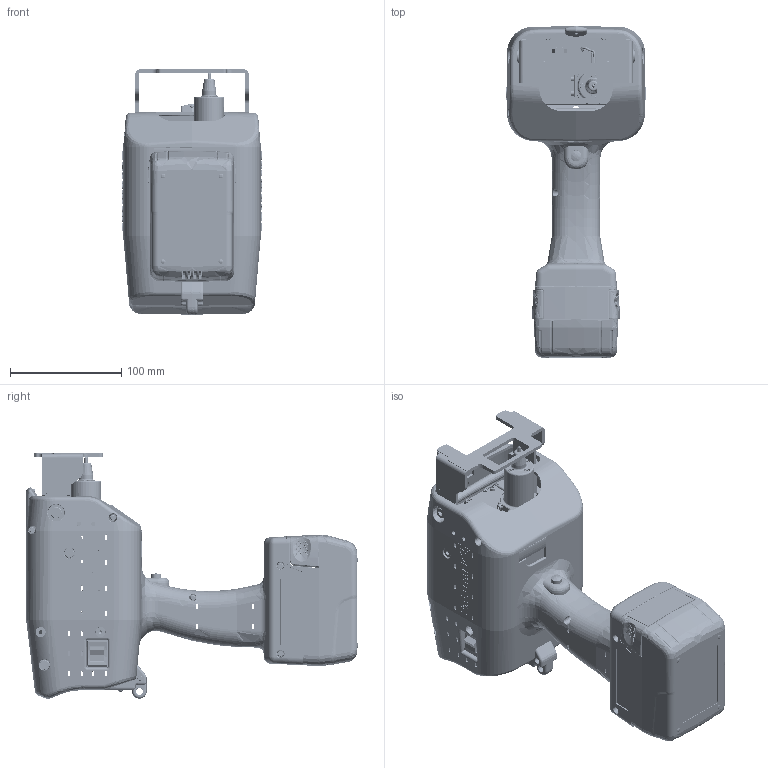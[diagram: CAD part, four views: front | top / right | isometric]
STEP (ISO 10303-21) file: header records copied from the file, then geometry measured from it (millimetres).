
FILE_DESCRIPTION (( 'STEP AP203' ), '1' );
FILE_NAME ('Patmark2 v1 -A BA.STEP', '2026-07-08T23:19:17', ( '' ), ( '' ), 'SwSTEP 2.0', 'SolidWorks 2023', '' );
FILE_SCHEMA (( 'CONFIG_CONTROL_DESIGN' ));
Length unit declared in the file: millimetre
Products named in the file (73): TCQ-K3-01663G-23 v2 底板; TCQ-K3-01663G-22 第5シャッター; TCQ-G-00001-7 ボビン座金上; 8HD1011-Z ロッカースイッチ; TCQ-K3-02700G-13 金属ワッシャ1 1t; TCQ-K3-01663G-20 第3シャッター; SW25; cap3_4; TCQ-G-00001-4 v2 ピンホルダー; TCQ-K3-01663G-28 SUSガイドすべり止めゴム; 140000480596 ロッカー; NB2_3; cap25_10 SUS; 54B-030605 オイレスブッシュ; TCT-00151-02 01 左カバー(Patmark2); capw6_15; TCQ-K3-02700G-25 ナットホルダーカバー; TCQ-G-00003-06 v1 SUS打刻ガイド; BPL-2520(BPL-25)_Stopper_R(外観); BPL-2520_Case; TCQ-G-00001-30 LEDカバー; 140000600181 取付枠(SUS板); BPL-2520(BPL-25)_Cap; TCQ-K3-01663G-15 v2 レール1(後); NB25_3; TCT-00151-04 02 ブラケット取付棒(Patmark2); TCQ-K3-02700G-5A ピンヘッド; TCQ-G-00001-6 スペーサー; TCQ-K3-01663G-37 v1 X軸ベルト押え; XAP-02V-1 プラグハウジング; cap25_4; caps25_6 SUS; 140000340129 取付枠(樹脂); TCQ-K3-01663G-21 第4シャッター; HS3_8 平先; バッテリー端子; TCQ-K3-01663G-12 X軸センサ取付板; Patmark ソレノイドブロック v2 PM3D用; BPL-2520(BPL-25)_Stopper_L(外観); TCQ-G-00003-10 v1 ソレノイド取付板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
Assembly tree (112 placements, depth 4):
  Patmark2 v1 -A BA
    TCQ-K3-01663G-18 v2 第1シャッター
    TCQ-K3-01663G-19 第2シャッター
    TCQ-K3-01663G-20 第3シャッター
    TCQ-K3-01663G-21 第4シャッター
    TCQ-K3-01663G-22 第5シャッター
    TCT-00151-03 01 アルミフレーム(Patmark2)
    TCQ-K3-01663G-37 v1 X軸ベルト押え
    TCQ-K3-01663G-12 X軸センサ取付板
    TCQ-K3-01663G-15 v2 レール1(後)
    TCQ-K3-01663G-16 v3 レール2(前)
    TCQ-K3-01663G-23 v2 底板
    TCQ-K3-02700G-13 金属ワッシャ1 1t  x3
    TCQ-K3-02700G-25 ナットホルダーカバー
    TCQ-G-00001-27 ボタントップ
    TCQ-G-00001-30 LEDカバー
    TCQ-G-00001-31 USBキャップ_ﾊﾞﾝﾄﾞ付-1
    TCQ-G-00001-32 バッテリーキャップ
    PC2664-3R MB3-4-IN INRET基板
    PC2664-3R LED LED基板
    OSW54K3131A 白色LED
    バッテリー端子
    8HD1011-Z ロッカースイッチ
      140000600181 取付枠(SUS板)
      140000340129 取付枠(樹脂)
      8HD1011-Z ロッカースイッチ
      140000480596 ロッカー
    BPL-2520
      BPL-2520_Case
      BPL-2520_BlindCover
      トルクスネジM3×20  x4
      BPL-2520(BPL-25)_Cap
      BPL-2520(BPL-25)_Stopper_L(外観)
      BPL-2520(BPL-25)_Stopper_R(外観)
    Patmark ソレノイドブロック v2 PM3D用
      TCQ-G-00001-4 v2 ピンホルダー
      TCQ-G-00001-5 v3 ソレノイドカバー
      TCQ-G-00001-6 スペーサー
      TCQ-G-00001-7 ボビン座金上
      TCQ-G-00003-10 v1 ソレノイド取付板
      TCQ-K3-02700G-5 打刻ピン
        TCQ-K3-02700G-5A ピンヘッド
        TCQ-K3-02700G-5B ピン(超硬)
      54B-030605 オイレスブッシュ
      TCQ-G-00001-H3  SOLケーブル
      cap25_10 SUS
      caps25_5 SUS  x4
      cap25_6 SUS  x4
      SW25  x4
      caps25_6 SUS  x4
    TCT-00151-01 01 右カバー(Patmark2)
    TCT-00151-02 01 左カバー(Patmark2)
    TCT-00151-04 02 ブラケット取付棒(Patmark2)
    TCT-00151-05 03 ブラケット取付棒(Patmark2)
    TCQ-G-00003-06 v1 SUS打刻ガイド
    TCQ-K3-01663G-28 SUSガイドすべり止めゴム
    XARR-02V リセプタクルハウジング
    XAP-02V-1 プラグハウジング
    cap25_4  x6
    cap25_12  x6
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Bounding box: 125.6 x 298.78 x 221 mm (x, y, z)
Volume: 687081.5 mm3; surface area: 519484.3 mm2
Topology: 133 solids, 134 shells, 9266 faces, 23572 edges, 14768 vertices
Faces by surface type: plane 3802, cylinder 2308, bspline 2191, cone 867, torus 59, sphere 39
Entity records: 338090 total; most frequent: CARTESIAN_POINT 147491, ORIENTED_EDGE 41932, DIRECTION 31822, EDGE_CURVE 20966, VERTEX_POINT 13237, AXIS2_PLACEMENT_3D 10612, VECTOR 10598, LINE 10598
